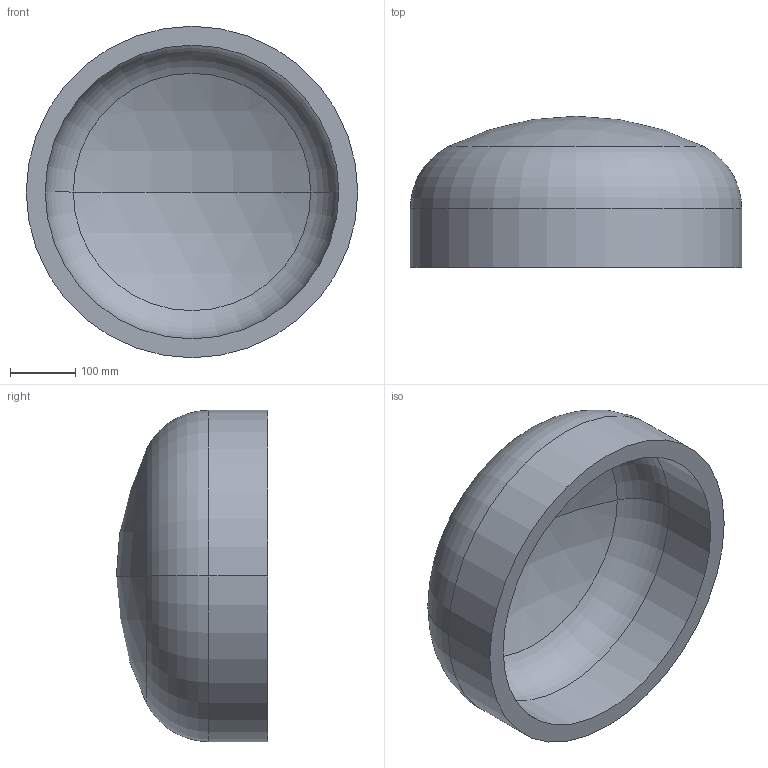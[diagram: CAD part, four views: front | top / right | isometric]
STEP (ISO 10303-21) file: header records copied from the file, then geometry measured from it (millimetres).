
FILE_DESCRIPTION (( 'STEP AP203' ), '1' );
FILE_NAME ('DIN 28013 Korbbogenform_-_Boden DIN 28013 - 508 x 90 - I - s=29.step', '2016-07-01T07:53:46', ( '' ), ( '' ), 'SwSTEP 2.0', 'SolidWorks 2013', '' );
FILE_SCHEMA (( 'CONFIG_CONTROL_DESIGN' ));
Length unit declared in the file: millimetre
Products named in the file (1): DIN 28013 Korbbogenform_-_Boden DIN 28013 - 508 x 90 - I - s=29
Bounding box: 508 x 231.79 x 508 mm (x, y, z)
Volume: 11491397.4 mm3; surface area: 837911.3 mm2
Topology: 1 solids, 1 shells, 13 faces, 24 edges, 14 vertices
Faces by surface type: torus 4, cylinder 4, sphere 4, plane 1
Entity records: 407 total; most frequent: DIRECTION 72, CARTESIAN_POINT 52, ORIENTED_EDGE 48, AXIS2_PLACEMENT_3D 34, EDGE_CURVE 24, CIRCLE 20, VERTEX_POINT 14, EDGE_LOOP 14
